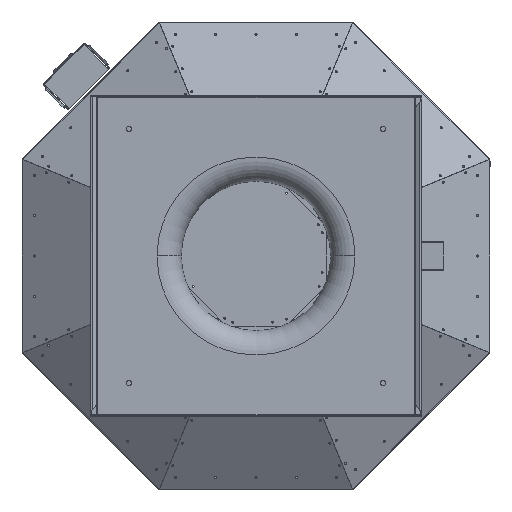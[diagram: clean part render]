
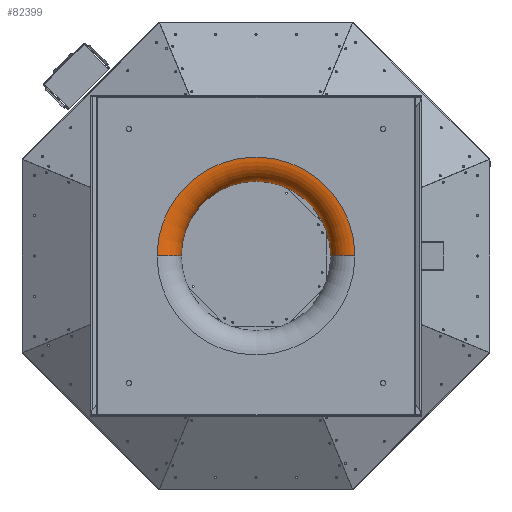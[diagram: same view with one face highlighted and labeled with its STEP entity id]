
A CAD part, front view. The second image highlights one B-rep face of the part: STEP entity #82399.
In plain terms, the highlighted toroidal (fillet/blend) face has major radius 208 mm and minor radius 51 mm.
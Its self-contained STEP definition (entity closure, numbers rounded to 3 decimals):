
#4808 = VERTEX_POINT ( 'NONE', #33978 ) ;
#13080 = CIRCLE ( 'NONE', #82298, 51. ) ;
#19941 = EDGE_LOOP ( 'NONE', ( #39313, #28074, #24100, #94474 ) ) ;
#24100 = ORIENTED_EDGE ( 'NONE', *, *, #108482, .F. ) ;
#28074 = ORIENTED_EDGE ( 'NONE', *, *, #106724, .T. ) ;
#28688 = DIRECTION ( 'NONE',  ( 0., 0., -1. ) ) ;
#29986 = CARTESIAN_POINT ( 'NONE',  ( -208., 50., 0. ) ) ;
#33978 = CARTESIAN_POINT ( 'NONE',  ( -157., 50., 0. ) ) ;
#35504 = VERTEX_POINT ( 'NONE', #109434 ) ;
#39313 = ORIENTED_EDGE ( 'NONE', *, *, #115295, .T. ) ;
#39787 = DIRECTION ( 'NONE',  ( 1., 0., 0. ) ) ;
#43250 = VERTEX_POINT ( 'NONE', #87411 ) ;
#44358 = FACE_OUTER_BOUND ( 'NONE', #19941, .T. ) ;
#45464 = DIRECTION ( 'NONE',  ( 0., -1., 0. ) ) ;
#49762 = DIRECTION ( 'NONE',  ( 0., -1., 0. ) ) ;
#51285 = VERTEX_POINT ( 'NONE', #56040 ) ;
#53537 = DIRECTION ( 'NONE',  ( 0., -1., 0. ) ) ;
#56040 = CARTESIAN_POINT ( 'NONE',  ( 208., -1., 0. ) ) ;
#57944 = AXIS2_PLACEMENT_3D ( 'NONE', #108128, #49762, #117920 ) ;
#58518 = CIRCLE ( 'NONE', #114751, 51. ) ;
#63338 = CARTESIAN_POINT ( 'NONE',  ( 0., 50., 0. ) ) ;
#70319 = TOROIDAL_SURFACE ( 'NONE', #95777, 208., 51. ) ;
#77061 = CIRCLE ( 'NONE', #121888, 208. ) ;
#82298 = AXIS2_PLACEMENT_3D ( 'NONE', #87073, #28688, #96882 ) ;
#82399 = ADVANCED_FACE ( 'NONE', ( #44358 ), #70319, .T. ) ;
#82482 = DIRECTION ( 'NONE',  ( 1., 0., 0. ) ) ;
#87073 = CARTESIAN_POINT ( 'NONE',  ( 208., 50., 0. ) ) ;
#87411 = CARTESIAN_POINT ( 'NONE',  ( 157., 50., 0. ) ) ;
#92249 = EDGE_CURVE ( 'NONE', #51285, #43250, #13080, .T. ) ;
#94474 = ORIENTED_EDGE ( 'NONE', *, *, #92249, .F. ) ;
#95777 = AXIS2_PLACEMENT_3D ( 'NONE', #63338, #53537, #82482 ) ;
#96882 = DIRECTION ( 'NONE',  ( 0., 1., 0. ) ) ;
#98178 = DIRECTION ( 'NONE',  ( 0., 0., 1. ) ) ;
#99182 = CIRCLE ( 'NONE', #57944, 157. ) ;
#103842 = CARTESIAN_POINT ( 'NONE',  ( 0., -1., 0. ) ) ;
#106724 = EDGE_CURVE ( 'NONE', #35504, #4808, #58518, .T. ) ;
#108128 = CARTESIAN_POINT ( 'NONE',  ( 0., 50., 0. ) ) ;
#108482 = EDGE_CURVE ( 'NONE', #43250, #4808, #99182, .T. ) ;
#109434 = CARTESIAN_POINT ( 'NONE',  ( -208., -1., 0. ) ) ;
#113647 = DIRECTION ( 'NONE',  ( 1., 0., 0. ) ) ;
#114751 = AXIS2_PLACEMENT_3D ( 'NONE', #29986, #98178, #39787 ) ;
#115295 = EDGE_CURVE ( 'NONE', #51285, #35504, #77061, .T. ) ;
#117920 = DIRECTION ( 'NONE',  ( 1., 0., 0. ) ) ;
#121888 = AXIS2_PLACEMENT_3D ( 'NONE', #103842, #45464, #113647 ) ;
